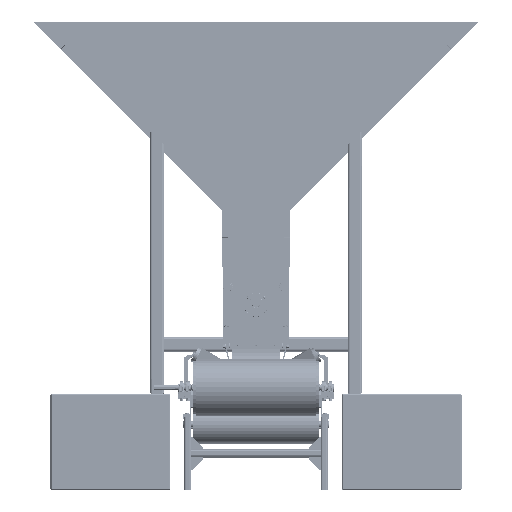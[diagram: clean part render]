
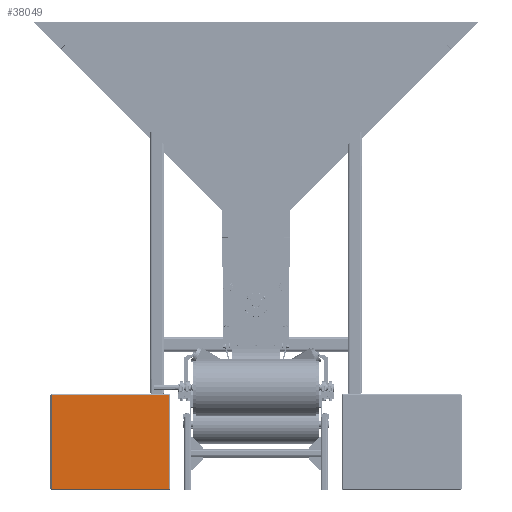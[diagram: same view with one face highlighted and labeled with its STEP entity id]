
A CAD part, top view. The second image highlights one B-rep face of the part: STEP entity #38049.
In plain terms, the highlighted planar face has unit normal (0, 0, 1) as drawn and (-1, 0, 0) by its records, which use the part's own axes.
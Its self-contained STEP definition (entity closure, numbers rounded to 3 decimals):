
#27215=FACE_OUTER_BOUND('',#59983,.T.);
#38049=ADVANCED_FACE('',(#27215),#47672,.F.);
#47672=PLANE('',#221067);
#59983=EDGE_LOOP('',(#99524,#99525,#99526,#99527));
#99524=ORIENTED_EDGE('',*,*,#159463,.F.);
#99525=ORIENTED_EDGE('',*,*,#159447,.T.);
#99526=ORIENTED_EDGE('',*,*,#159464,.F.);
#99527=ORIENTED_EDGE('',*,*,#159465,.F.);
#134655=VERTEX_POINT('',#332863);
#134656=VERTEX_POINT('',#332864);
#134663=VERTEX_POINT('',#332895);
#134664=VERTEX_POINT('',#332897);
#159447=EDGE_CURVE('',#134655,#134656,#185393,.T.);
#159463=EDGE_CURVE('',#134655,#134663,#185409,.T.);
#159464=EDGE_CURVE('',#134664,#134656,#185410,.T.);
#159465=EDGE_CURVE('',#134663,#134664,#185411,.T.);
#185393=LINE('',#332862,#205674);
#185409=LINE('',#332894,#205690);
#185410=LINE('',#332896,#205691);
#185411=LINE('',#332898,#205692);
#205674=VECTOR('',#259040,1.);
#205690=VECTOR('',#259072,1.);
#205691=VECTOR('',#259073,1.);
#205692=VECTOR('',#259074,1.);
#221067=AXIS2_PLACEMENT_3D('',#332899,#259075,#259076);
#259040=DIRECTION('',(0.,0.,-1.));
#259072=DIRECTION('',(0.,-1.,0.));
#259073=DIRECTION('',(0.,1.,0.));
#259074=DIRECTION('',(0.,0.,-1.));
#259075=DIRECTION('',(1.,0.,0.));
#259076=DIRECTION('',(0.,-1.,0.));
#332862=CARTESIAN_POINT('',(-700.,390.,500.));
#332863=CARTESIAN_POINT('',(-700.,390.,490.));
#332864=CARTESIAN_POINT('',(-700.,390.,-490.));
#332894=CARTESIAN_POINT('',(-700.,400.,490.));
#332895=CARTESIAN_POINT('',(-700.,-390.,490.));
#332896=CARTESIAN_POINT('',(-700.,400.,-490.));
#332897=CARTESIAN_POINT('',(-700.,-390.,-490.));
#332898=CARTESIAN_POINT('',(-700.,-390.,500.));
#332899=CARTESIAN_POINT('',(-700.,400.,500.));
